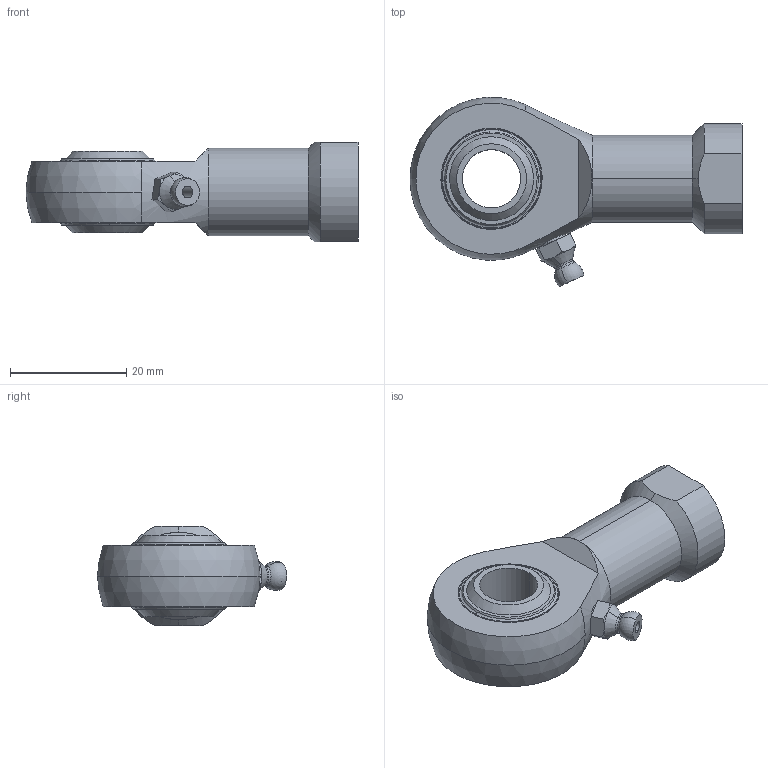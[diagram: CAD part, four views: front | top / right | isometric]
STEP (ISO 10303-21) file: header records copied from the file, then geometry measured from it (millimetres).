
FILE_DESCRIPTION (( 'STEP AP203' ), '1' );
FILE_NAME ('65760.W0110.step', '2014-02-11T16:41:41', ( 'User' ), ( '' ), 'SwSTEP 2.0', 'SolidWorks 2009', '' );
FILE_SCHEMA (( 'CONFIG_CONTROL_DESIGN' ));
Length unit declared in the file: millimetre
Products named in the file (5): 65760.W0110; Part1_65760.W0110; Part2_65760.W0110; Part3_M5; Part4_65760.W0110
Assembly tree (5 placements, depth 2):
  65760.W0110
    Part2_65760.W0110
    Part4_65760.W0110  x2
    Part1_65760.W0110
    Part3_M5
Bounding box: 57 x 32.47 x 17 mm (x, y, z)
Volume: 9830.2 mm3; surface area: 7874.1 mm2
Topology: 46 solids, 46 shells, 183 faces, 524 edges, 353 vertices
Faces by surface type: sphere 98, plane 27, torus 22, cylinder 20, cone 16
Entity records: 4793 total; most frequent: CARTESIAN_POINT 887, DIRECTION 814, ORIENTED_EDGE 558, AXIS2_PLACEMENT_3D 385, EDGE_CURVE 279, VERTEX_POINT 208, CIRCLE 207, EDGE_LOOP 189
